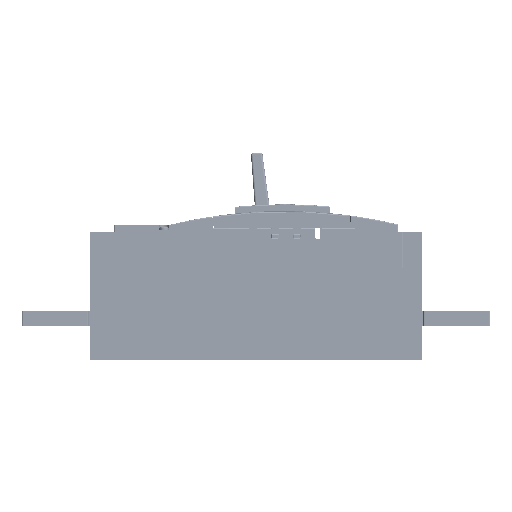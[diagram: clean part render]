
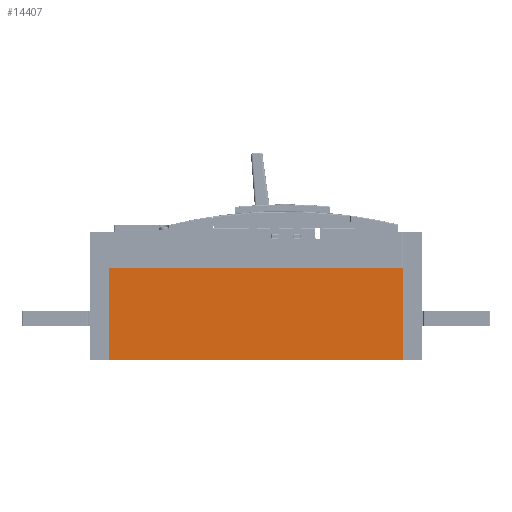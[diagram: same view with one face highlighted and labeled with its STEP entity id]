
A CAD part, left-side view. The second image highlights one B-rep face of the part: STEP entity #14407.
In plain terms, the highlighted planar face has unit normal (-1, 0, 0).
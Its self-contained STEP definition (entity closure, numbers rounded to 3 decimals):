
#7718 = CARTESIAN_POINT ( 'NONE',  ( -128.283, 66.423, -1.5 ) ) ;
#14281 = EDGE_LOOP ( 'NONE', ( #14525, #14313, #14316, #14647 ) ) ;
#14293 = EDGE_CURVE ( 'NONE', #82910, #76202, #232479, .T. ) ;
#14313 = ORIENTED_EDGE ( 'NONE', *, *, #81436, .T. ) ;
#14316 = ORIENTED_EDGE ( 'NONE', *, *, #14293, .F. ) ;
#14347 = EDGE_CURVE ( 'NONE', #82962, #81951, #232916, .T. ) ;
#14407 = ADVANCED_FACE ( 'NONE', ( #233541 ), #233500, .F. ) ;
#14525 = ORIENTED_EDGE ( 'NONE', *, *, #14347, .T. ) ;
#14647 = ORIENTED_EDGE ( 'NONE', *, *, #82973, .F. ) ;
#76202 = VERTEX_POINT ( 'NONE', #7718 ) ;
#81436 = EDGE_CURVE ( 'NONE', #81951, #76202, #160081, .T. ) ;
#81951 = VERTEX_POINT ( 'NONE', #160923 ) ;
#82910 = VERTEX_POINT ( 'NONE', #162691 ) ;
#82962 = VERTEX_POINT ( 'NONE', #162798 ) ;
#82973 = EDGE_CURVE ( 'NONE', #82962, #82910, #162790, .T. ) ;
#160078 = DIRECTION ( 'NONE',  ( 0., -1., 0. ) ) ;
#160079 = VECTOR ( 'NONE', #160078, 1000. ) ;
#160080 = CARTESIAN_POINT ( 'NONE',  ( -128.283, 66.423, -1.5 ) ) ;
#160081 = LINE ( 'NONE', #160080, #160079 ) ;
#160923 = CARTESIAN_POINT ( 'NONE',  ( -128.283, 376.423, -1.5 ) ) ;
#162691 = CARTESIAN_POINT ( 'NONE',  ( -128.283, 66.423, 95. ) ) ;
#162787 = DIRECTION ( 'NONE',  ( 0., -1., 0. ) ) ;
#162788 = VECTOR ( 'NONE', #162787, 1000. ) ;
#162789 = CARTESIAN_POINT ( 'NONE',  ( -128.283, 66.423, 95. ) ) ;
#162790 = LINE ( 'NONE', #162789, #162788 ) ;
#162798 = CARTESIAN_POINT ( 'NONE',  ( -128.283, 376.423, 95. ) ) ;
#232476 = DIRECTION ( 'NONE',  ( 0., 0., -1. ) ) ;
#232477 = VECTOR ( 'NONE', #232476, 1000. ) ;
#232478 = CARTESIAN_POINT ( 'NONE',  ( -128.283, 66.423, 95. ) ) ;
#232479 = LINE ( 'NONE', #232478, #232477 ) ;
#232911 = DIRECTION ( 'NONE',  ( 0., 0., -1. ) ) ;
#232913 = VECTOR ( 'NONE', #232911, 1000. ) ;
#232914 = CARTESIAN_POINT ( 'NONE',  ( -128.283, 376.423, 95. ) ) ;
#232916 = LINE ( 'NONE', #232914, #232913 ) ;
#233500 = PLANE ( 'NONE',  #233655 ) ;
#233541 = FACE_OUTER_BOUND ( 'NONE', #14281, .T. ) ;
#233646 = DIRECTION ( 'NONE',  ( 0., 0., -1. ) ) ;
#233650 = DIRECTION ( 'NONE',  ( 1., 0., 0. ) ) ;
#233653 = CARTESIAN_POINT ( 'NONE',  ( -128.283, 66.423, 95. ) ) ;
#233655 = AXIS2_PLACEMENT_3D ( 'NONE', #233653, #233650, #233646 ) ;
